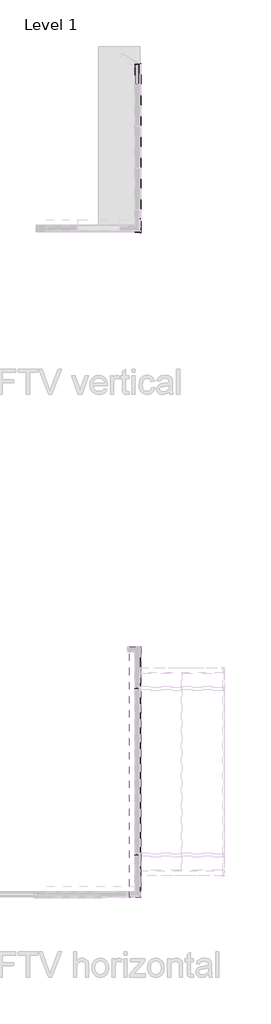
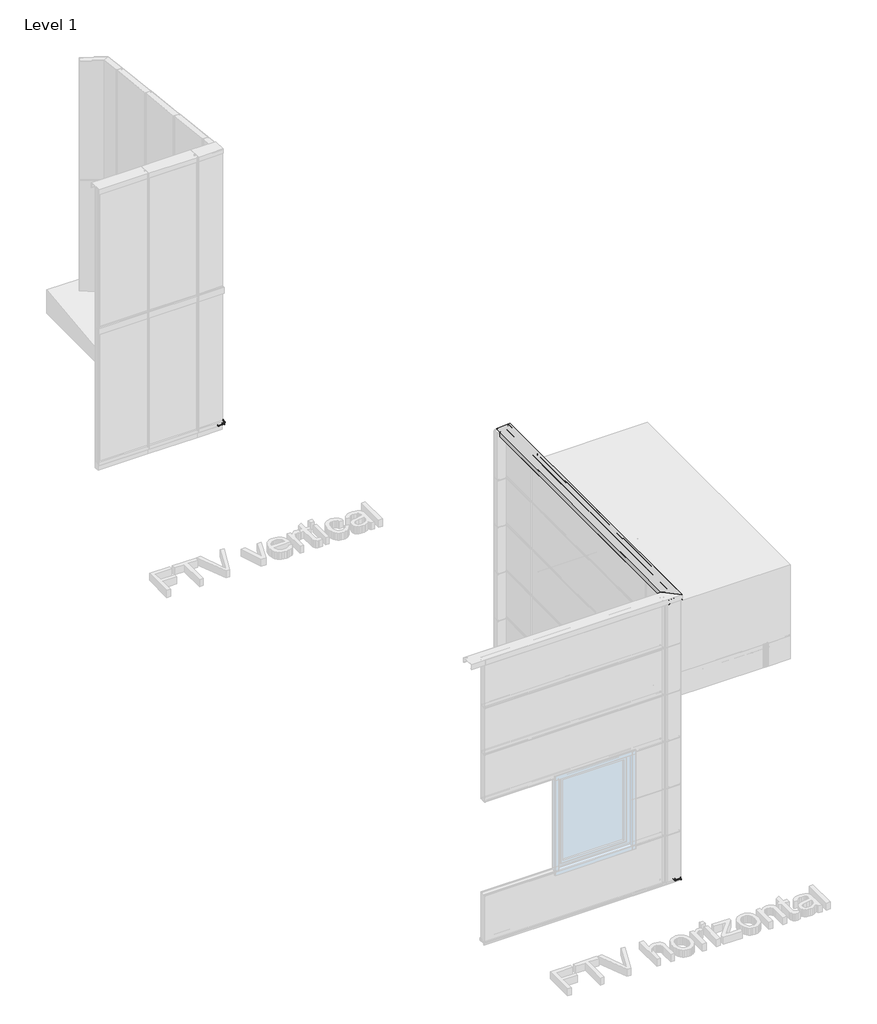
# One storey, part 15 of 16: 3 beams.
"""IFC4 building model written with IfcOpenShell, lengths in millimetres."""

from ifc_helpers import new_model, si_unit, point, frame, frame_2d, origin, place, context, project, spatial, polyline, circle_curve, ellipse_curve, trimmed, segment, composite_curve, outline, extrude, faceted_brep, element, save
from ifc_brep_helpers import plane_surface, cylinder_surface, revolved_surface, advanced_brep

model = new_model("IFC4")

# Units and contexts
model_context = context("Model", 3, world=origin())
ifc_project = project(units=[si_unit("LENGTHUNIT", "METRE", prefix="MILLI")], contexts=[model_context])

# Site, building, storey
site = spatial("IfcSite", under=ifc_project)
building = spatial("IfcBuilding", under=site)
storey = spatial("IfcBuildingStorey", under=building, Name="Level 1", Elevation=0.0)

# Beams
placement = place(None, origin())
element("IfcBeam", 1, ObjectType="TE-V-02_01_Base detail i_BEAM : Base detail", at=placement, inside=storey, context=model_context, shape_type="Brep", body=[
    faceted_brep([(24.5385322, 3923.1778141, 194.9633718), (7.5382377, 3922.6516828, 199.4881007), (7.8488205, 3922.5178045, 200.6394542), (26.4844943, 3923.0945481, 195.6794595), (26.4844943, 3931.6101242, 122.445505), (9.4896675, 3929.6472071, 139.3265919), (8.9239821, 3929.7125442, 138.7646924), (27.2844943, 3931.8331991, 120.5270601), (27.2844943, 3923.0236465, 196.2892127), (7.2831351, 3922.4046372, 201.6126927), (6.5584418, 3922.71702, 198.9262012), (24.331477, 3923.2670663, 194.1958028), (24.5385322, 7963.7195842, 664.7938102), (24.331477, 7963.8088364, 664.0262412), (6.5584418, 7963.2587901, 668.7566396), (7.2831351, 7962.9464074, 671.4431311), (27.2844943, 7963.5654167, 666.1196511), (27.2844943, 7972.3749693, 590.3574985), (8.9239821, 7970.2543144, 608.5951308), (9.4896675, 7970.1889772, 609.1570303), (26.4844943, 7972.1518943, 592.2759434), (26.4844943, 7963.6363182, 665.5098978), (7.8488205, 7963.0595746, 670.4698926), (7.5382377, 7963.1934529, 669.3185391)], [[[0, 1, 2, 3, 4, 5, 6, 7, 8, 9, 10, 11]], [[12, 13, 14, 15, 16, 17, 18, 19, 20, 21, 22, 23]], [[1, 0, 12, 23]], [[2, 1, 23, 22]], [[3, 2, 22, 21]], [[4, 3, 21, 20]], [[5, 4, 20, 19]], [[6, 5, 19, 18]], [[7, 6, 18, 17]], [[8, 7, 17, 16]], [[9, 8, 16, 15]], [[10, 9, 15, 14]], [[11, 10, 14, 13]], [[0, 11, 13, 12]]]),
    faceted_brep([(26.4844943, 3949.0069121, 198.692525), (26.4844943, 7963.6363182, 665.5098978), (26.4844943, 7972.1518943, 592.2759434), (26.4844943, 3949.0069121, 124.4683873), (9.4896675, 7970.1889772, 609.1570303), (9.4896675, 3966.0017389, 143.5538631), (8.9239821, 3966.5674244, 143.0501436), (8.9239821, 7970.2543144, 608.5951308), (27.2844943, 7972.3749693, 590.3574985), (27.2844943, 3948.2069121, 122.4309802), (27.2844943, 7963.5654167, 666.1196511), (27.2844943, 3948.2069121, 199.2174994), (24.5385322, 7963.7195842, 664.7938102), (24.331477, 7963.8088364, 664.0262412), (6.5584418, 7963.2587901, 668.7566396), (7.2831351, 7962.9464074, 671.4431311), (7.8488205, 7963.0595746, 670.4698926), (7.5382377, 7963.1934529, 669.3185391), (24.331477, 3951.1599295, 197.439159), (24.5385322, 3950.9528743, 198.19303), (6.5584418, 3968.9329647, 204.3001482), (7.2831351, 3968.2082714, 206.9386966), (7.8488205, 3967.6425859, 205.8865218), (7.5382377, 3967.9531688, 204.7557153)], [[[0, 1, 2, 3]], [[3, 2, 4, 5]], [[6, 7, 8, 9]], [[9, 8, 10, 11]], [[12, 13, 14, 15, 10, 8, 7, 4, 2, 1, 16, 17]], [[18, 13, 12, 19]], [[20, 14, 13, 18]], [[21, 15, 14, 20]], [[11, 10, 15, 21]], [[5, 4, 7, 6]], [[22, 16, 1, 0]], [[23, 17, 16, 22]], [[19, 12, 17, 23]], [[19, 23, 22, 0, 3, 5, 6, 9, 11, 21, 20, 18]]]),
    faceted_brep([(7.4844943, 7963.3096563, 668.3191906), (23.4428352, 7963.8035408, 664.0717838), (23.23578, 7963.892793, 663.3042148), (8.2844943, 7963.4300752, 667.2835879), (8.2844943, 7969.0987083, 618.5333432), (25.2844943, 7969.0987083, 618.5333432), (25.2844943, 7971.8014284, 595.2899505), (24.4844943, 7971.8014284, 595.2899505), (24.4844943, 7969.191109, 617.7386973), (7.4844943, 7969.191109, 617.7386973), (7.4844943, 3922.7678861, 198.4887522), (7.4844943, 3928.6493388, 147.9082589), (24.4844943, 3928.6493388, 147.9082589), (24.4844943, 3931.2596582, 125.4595121), (25.2844943, 3931.2596582, 125.4595121), (25.2844943, 3928.5569381, 148.7029048), (8.2844943, 3928.5569381, 148.7029048), (8.2844943, 3922.888305, 197.4531495), (23.23578, 3923.3510228, 193.4737765), (23.4428352, 3923.2617706, 194.2413455)], [[[0, 1, 2, 3, 4, 5, 6, 7, 8, 9]], [[10, 11, 12, 13, 14, 15, 16, 17, 18, 19]], [[1, 0, 10, 19]], [[2, 1, 19, 18]], [[3, 2, 18, 17]], [[4, 3, 17, 16]], [[5, 4, 16, 15]], [[6, 5, 15, 14]], [[7, 6, 14, 13]], [[8, 7, 13, 12]], [[9, 8, 12, 11]], [[0, 9, 11, 10]]]),
    faceted_brep([(7.4844943, 7963.3096563, 668.3191906), (23.4428352, 7963.8035408, 664.0717838), (23.23578, 7963.892793, 663.3042148), (8.2844943, 7963.4300752, 667.2835879), (8.2844943, 7969.0987083, 618.5333432), (25.2844943, 7969.0987083, 618.5333432), (25.2844943, 7971.8014284, 595.2899505), (24.4844943, 7971.8014284, 595.2899505), (24.4844943, 7969.191109, 617.7386973), (7.4844943, 7969.191109, 617.7386973), (7.4844943, 3968.0069121, 203.7491041), (23.4428352, 3952.0485713, 197.5886479), (23.23578, 3952.2556265, 196.8347769), (8.2844943, 3967.2069121, 202.6064759), (8.2844943, 3967.2069121, 153.1970878), (25.2844943, 3950.2069121, 151.2203436), (25.2844943, 3950.2069121, 127.6626811), (24.4844943, 3951.0069121, 127.7557044), (24.4844943, 3951.0069121, 150.5079767), (7.4844943, 3968.0069121, 152.4847209)], [[[0, 1, 2, 3, 4, 5, 6, 7, 8, 9]], [[1, 0, 10, 11]], [[2, 1, 11, 12]], [[3, 2, 12, 13]], [[4, 3, 13, 14]], [[5, 4, 14, 15]], [[6, 5, 15, 16]], [[7, 6, 16, 17]], [[8, 7, 17, 18]], [[9, 8, 18, 19]], [[0, 9, 19, 10]], [[11, 10, 19, 18, 17, 16, 15, 14, 13, 12]]]),
    faceted_brep([(7.3725102, 7969.713442, 613.246633), (25.1673371, 7971.7687598, 595.5709002), (24.6016516, 7971.8340969, 595.0090007), (7.0411394, 7969.8058427, 612.4519871), (-23.1931752, 7969.8058427, 612.4519871), (-23.1931752, 7966.340817, 642.2512085), (-24.3931752, 7966.340817, 642.2512085), (-24.3931752, 7969.8058427, 612.4519871), (-113.1470653, 7969.8058427, 612.4519871), (-115.6275805, 7967.4724741, 632.5189569), (-114.8335436, 7967.4612133, 632.6157999), (-112.4392851, 7969.713442, 613.246633), (-25.1931752, 7969.713442, 613.246633), (-25.1931752, 7966.2484163, 643.0458544), (-22.3931752, 7966.2484163, 643.0458544), (-22.3931752, 7969.713442, 613.246633), (7.3725102, 3929.1716719, 143.4161946), (-22.3931752, 3929.1716719, 143.4161946), (-22.3931752, 3925.7066461, 173.215416), (-25.1931752, 3925.7066461, 173.215416), (-25.1931752, 3929.1716719, 143.4161946), (-112.4392851, 3929.1716719, 143.4161946), (-114.8335436, 3926.9194432, 162.7853615), (-115.6275805, 3926.930704, 162.6885186), (-113.1470653, 3929.2640726, 142.6215487), (-24.3931752, 3929.2640726, 142.6215487), (-24.3931752, 3925.7990468, 172.4207701), (-23.1931752, 3925.7990468, 172.4207701), (-23.1931752, 3929.2640726, 142.6215487), (7.0411394, 3929.2640726, 142.6215487), (24.6016516, 3931.2923268, 125.1785623), (25.1673371, 3931.2269896, 125.7404618)], [[[0, 1, 2, 3, 4, 5, 6, 7, 8, 9, 10, 11, 12, 13, 14, 15]], [[16, 17, 18, 19, 20, 21, 22, 23, 24, 25, 26, 27, 28, 29, 30, 31]], [[1, 0, 16, 31]], [[2, 1, 31, 30]], [[3, 2, 30, 29]], [[4, 3, 29, 28]], [[5, 4, 28, 27]], [[6, 5, 27, 26]], [[7, 6, 26, 25]], [[8, 7, 25, 24]], [[9, 8, 24, 23]], [[10, 9, 23, 22]], [[11, 10, 22, 21]], [[12, 11, 21, 20]], [[13, 12, 20, 19]], [[14, 13, 19, 18]], [[15, 14, 18, 17]], [[0, 15, 17, 16]]]),
    faceted_brep([(7.3725102, 7969.713442, 613.246633), (25.1673371, 7971.7687598, 595.5709002), (24.6016516, 7971.8340969, 595.0090007), (7.0411394, 7969.8058427, 612.4519871), (-23.1931752, 7969.8058427, 612.4519871), (-23.1931752, 7966.340817, 642.2512085), (-24.3931752, 7966.340817, 642.2512085), (-24.3931752, 7969.8058427, 612.4519871), (-113.1470653, 7969.8058427, 612.4519871), (-115.6275805, 7967.4724741, 632.5189569), (-114.8335436, 7967.4612133, 632.6157999), (-112.4392851, 7969.713442, 613.246633), (-25.1931752, 7969.713442, 613.246633), (-25.1931752, 7966.2484163, 643.0458544), (-22.3931752, 7966.2484163, 643.0458544), (-22.3931752, 7969.713442, 613.246633), (7.3725102, 3968.1188962, 147.9449417), (25.1673371, 3950.3240694, 127.9610525), (24.6016516, 3950.8897548, 127.457333), (7.0411394, 3968.4502671, 147.178083), (-23.1931752, 3998.6845817, 150.693701), (-23.1931752, 3998.6845817, 180.8958323), (-24.3931752, 3999.8845817, 181.0353672), (-24.3931752, 3999.8845817, 150.8332358), (-113.1470653, 4088.6384718, 161.1534556), (-115.6275805, 4091.118987, 181.7801794), (-114.8335436, 4090.3249501, 181.7860019), (-112.4392851, 4087.9306916, 161.8765458), (-25.1931752, 4000.6845817, 151.7316493), (-25.1931752, 4000.6845817, 181.9337806), (-22.3931752, 3997.8845817, 181.6081992), (-22.3931752, 3997.8845817, 151.4060679)], [[[0, 1, 2, 3, 4, 5, 6, 7, 8, 9, 10, 11, 12, 13, 14, 15]], [[1, 0, 16, 17]], [[2, 1, 17, 18]], [[3, 2, 18, 19]], [[4, 3, 19, 20]], [[5, 4, 20, 21]], [[6, 5, 21, 22]], [[7, 6, 22, 23]], [[8, 7, 23, 24]], [[9, 8, 24, 25]], [[10, 9, 25, 26]], [[11, 10, 26, 27]], [[12, 11, 27, 28]], [[13, 12, 28, 29]], [[14, 13, 29, 30]], [[15, 14, 30, 31]], [[0, 15, 31, 16]], [[17, 16, 31, 30, 29, 28, 27, 26, 25, 24, 23, 22, 21, 20, 19, 18]]]),
])
element("IfcBeam", 2, ObjectType="TE-H-02_01_Base detail i_BEAM : Base detail", at=placement, inside=storey, context=model_context, shape_type="SolidModel", body=[
    faceted_brep([(-6.3155057, -12043.2124765, 176.1857205), (-6.3155057, -12043.2124765, 161.1857205), (-5.5155057, -12043.2124765, 161.1857205), (-5.5155057, -12043.2124765, 175.3857205), (-2.1155057, -12043.2124765, 175.3857205), (-2.1155057, -12043.2124765, 150.7238403), (10.8748754, -12043.2124765, 143.2238403), (10.8748754, -12043.2124765, 120.6170914), (1.6339591, -12043.2124765, 129.8580077), (1.0682737, -12043.2124765, 129.2923222), (11.6748754, -12043.2124765, 118.6857205), (11.6748754, -12043.2124765, 143.6857205), (-1.3155057, -12043.2124765, 151.1857205), (-1.3155057, -12043.2124765, 176.1857205), (-6.3155057, -6030.3930879, 176.1857205), (-1.3155057, -6030.3930879, 176.1857205), (-1.3155057, -6030.3930879, 151.1857205), (11.6748754, -6030.3930879, 143.6857205), (11.6748754, -6030.3930879, 118.6857205), (1.0682737, -6030.3930879, 129.2923222), (1.6339591, -6030.3930879, 129.8580077), (10.8748754, -6030.3930879, 120.6170914), (10.8748754, -6030.3930879, 143.2238403), (-2.1155057, -6030.3930879, 150.7238403), (-2.1155057, -6030.3930879, 175.3857205), (-5.5155057, -6030.3930879, 175.3857205), (-5.5155057, -6030.3930879, 161.1857205), (-6.3155057, -6030.3930879, 161.1857205)], [[[0, 1, 2, 3, 4, 5, 6, 7, 8, 9, 10, 11, 12, 13]], [[14, 15, 16, 17, 18, 19, 20, 21, 22, 23, 24, 25, 26, 27]], [[1, 0, 14, 27]], [[2, 1, 27, 26]], [[3, 2, 26, 25]], [[4, 3, 25, 24]], [[5, 4, 24, 23]], [[6, 5, 23, 22]], [[7, 6, 22, 21]], [[8, 7, 21, 20]], [[9, 8, 20, 19]], [[10, 9, 19, 18]], [[11, 10, 18, 17]], [[12, 11, 17, 16]], [[13, 12, 16, 15]], [[0, 13, 15, 14]]]),
    faceted_brep([(-6.3155057, -6030.3930879, 176.1857205), (-1.3155057, -6030.3930879, 176.1857205), (-1.3155057, -6030.3930879, 151.1857205), (11.6748754, -6030.3930879, 143.6857205), (11.6748754, -6030.3930879, 118.6857205), (1.0682737, -6030.3930879, 129.2923222), (1.6339591, -6030.3930879, 129.8580077), (10.8748754, -6030.3930879, 120.6170914), (10.8748754, -6030.3930879, 143.2238403), (-2.1155057, -6030.3930879, 150.7238403), (-2.1155057, -6030.3930879, 175.3857205), (-5.5155057, -6030.3930879, 175.3857205), (-5.5155057, -6030.3930879, 161.1857205), (-6.3155057, -6030.3930879, 161.1857205), (-1.3155057, -12023.1930879, 176.1857205), (-6.3155057, -12018.1930879, 176.1857205), (-1.3155057, -12023.1930879, 151.1857205), (11.6748754, -12036.1834689, 143.6857205), (11.6748754, -12036.1834689, 118.6857205), (1.0682737, -12025.5768672, 129.2923222), (1.6339591, -12026.1425526, 129.8580077), (10.8748754, -12035.3834689, 120.6170914), (10.8748754, -12035.3834689, 143.2238403), (-2.1155057, -12022.3930879, 150.7238403), (-2.1155057, -12022.3930879, 175.3857205), (-5.5155057, -12018.9930879, 175.3857205), (-5.5155057, -12018.9930879, 161.1857205), (-6.3155057, -12018.1930879, 161.1857205)], [[[0, 1, 2, 3, 4, 5, 6, 7, 8, 9, 10, 11, 12, 13]], [[14, 1, 0, 15]], [[16, 2, 1, 14]], [[17, 3, 2, 16]], [[18, 4, 3, 17]], [[19, 5, 4, 18]], [[20, 6, 5, 19]], [[21, 7, 6, 20]], [[22, 8, 7, 21]], [[23, 9, 8, 22]], [[24, 10, 9, 23]], [[25, 11, 10, 24]], [[26, 12, 11, 25]], [[27, 13, 12, 26]], [[15, 0, 13, 27]], [[15, 27, 26, 25, 24, 23, 22, 21, 20, 19, 18, 17, 16, 14]]]),
    advanced_brep(
    [(-115.6155057, -6030.3930879, 148.5), (-118.6155057, -6030.3930879, 151.5), (-118.6155057, -6030.3930879, 198.5), (-117.1155057, -6030.3930879, 198.5), (-117.1155057, -6030.3930879, 151.5), (-115.6155057, -6030.3930879, 150.0), (-18.6155057, -6030.3930879, 150.0), (-18.6155057, -6030.3930879, 148.5), (-115.6155057, -12043.2124765, 148.5), (-18.6155057, -12043.2124765, 148.5), (-18.6155057, -12043.2124765, 150.0), (-115.6155057, -12043.2124765, 150.0), (-117.1155057, -12043.2124765, 151.5), (-117.1155057, -12043.2124765, 198.5), (-118.6155057, -12043.2124765, 198.5), (-118.6155057, -12043.2124765, 151.5)],
    [
        (0, 1, circle_curve(frame((-115.6155057, -6030.3930879, 151.5), z_axis=(0.0, 1.0, 0.0), x_axis=(-1.0, 0.0, 0.0)), 3.0)),
        (1, 2),
        (2, 3),
        (3, 4),
        (4, 5, circle_curve(frame((-115.6155057, -6030.3930879, 151.5), z_axis=(0.0, -1.0, 0.0), x_axis=(-1.0, 0.0, 0.0)), 1.5)),
        (5, 6),
        (6, 7),
        (7, 0),
        (8, 9),
        (9, 10),
        (10, 11),
        (11, 12, circle_curve(frame((-115.6155057, -12043.2124765, 151.5), z_axis=(0.0, 1.0, 0.0), x_axis=(-1.0, 0.0, 0.0)), 1.5)),
        (12, 13),
        (13, 14),
        (14, 15),
        (15, 8, circle_curve(frame((-115.6155057, -12043.2124765, 151.5), z_axis=(0.0, -1.0, 0.0), x_axis=(-1.0, 0.0, 0.0)), 3.0)),
        (0, 8),
        (15, 1),
        (14, 2),
        (13, 3),
        (12, 4),
        (11, 5),
        (10, 6),
        (9, 7),
    ],
    [
        plane_surface(frame((-118.6155057, -6030.3930879, 151.5), z_axis=(0.0, 1.0, 0.0), x_axis=(0.0, 0.0, 1.0))),
        plane_surface(frame((-118.6155057, -12043.2124765, 151.5), z_axis=(0.0, -1.0, 0.0), x_axis=(0.0, 0.0, -1.0))),
        cylinder_surface(frame((-115.6155057, -12043.2124765, 151.5), z_axis=(0.0, 1.0, 0.0), x_axis=(-1.0, 0.0, 0.0)), 3.0),
        plane_surface(frame((-118.6155057, -6030.3930879, 151.5), z_axis=(-1.0, 0.0, 0.0), x_axis=(0.0, -1.0, 0.0))),
        plane_surface(frame((-118.6155057, -6030.3930879, 198.5), z_axis=(0.0, 0.0, 1.0), x_axis=(0.0, -1.0, 0.0))),
        plane_surface(frame((-117.1155057, -6030.3930879, 198.5), z_axis=(1.0, 0.0, 0.0), x_axis=(0.0, -1.0, 0.0))),
        revolved_surface(polyline([(-117.1155057, -12043.2124765, 151.5), (-117.1155057, -6030.3930879, 151.5)]), (-115.6155057, -12043.2124765, 151.5), (0.0, -1.0, 0.0)),
        plane_surface(frame((-115.6155057, -6030.3930879, 150.0), z_axis=(0.0, 0.0, 1.0), x_axis=(0.0, -1.0, 0.0))),
        plane_surface(frame((-18.6155057, -6030.3930879, 150.0), z_axis=(1.0, 0.0, 0.0), x_axis=(0.0, -1.0, 0.0))),
        plane_surface(frame((-18.6155057, -6030.3930879, 148.5), z_axis=(0.0, 0.0, -1.0), x_axis=(0.0, -1.0, 0.0))),
    ],
    [
        (0, [[1, 2, 3, 4, 5, 6, 7, 8]]),
        (1, [[9, 10, 11, 12, 13, 14, 15, 16]]),
        (2, [[-1, 17, -16, 18]]),
        (3, [[-2, -18, -15, 19]]),
        (4, [[-3, -19, -14, 20]]),
        (5, [[-4, -20, -13, 21]]),
        (6, [[-5, -21, -12, 22]]),
        (7, [[-6, -22, -11, 23]]),
        (8, [[-7, -23, -10, 24]]),
        (9, [[-8, -24, -9, -17]]),
    ],
),
    advanced_brep(
    [(-115.6155057, -6030.3930879, 148.5), (-118.6155057, -6030.3930879, 151.5), (-118.6155057, -6030.3930879, 198.5), (-117.1155057, -6030.3930879, 198.5), (-117.1155057, -6030.3930879, 151.5), (-115.6155057, -6030.3930879, 150.0), (-18.6155057, -6030.3930879, 150.0), (-18.6155057, -6030.3930879, 148.5), (-115.6155057, -11908.8930879, 148.5), (-118.6155057, -11905.8930879, 151.5), (-118.6155057, -11905.8930879, 198.5), (-117.1155057, -11907.3930879, 198.5), (-117.1155057, -11907.3930879, 151.5), (-115.6155057, -11908.8930879, 150.0), (-18.6155057, -12005.8930879, 150.0), (-18.6155057, -12005.8930879, 148.5)],
    [
        (0, 1, circle_curve(frame((-115.6155057, -6030.3930879, 151.5), z_axis=(0.0, 1.0, 0.0), x_axis=(-1.0, 0.0, 0.0)), 3.0)),
        (1, 2),
        (2, 3),
        (3, 4),
        (4, 5, circle_curve(frame((-115.6155057, -6030.3930879, 151.5), z_axis=(0.0, -1.0, 0.0), x_axis=(-1.0, 0.0, 0.0)), 1.5)),
        (5, 6),
        (6, 7),
        (7, 0),
        (0, 8),
        (8, 9, ellipse_curve(frame((-115.6155057, -11908.8930879, 151.5), z_axis=(0.7071067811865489, 0.7071067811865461, 0.0), x_axis=(-0.7071067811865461, 0.7071067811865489, 0.0)), 4.2426407, 3.0)),
        (9, 1),
        (9, 10),
        (10, 2),
        (10, 11),
        (11, 3),
        (11, 12),
        (12, 4),
        (12, 13, ellipse_curve(frame((-115.6155057, -11908.8930879, 151.5), z_axis=(-0.7071067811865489, -0.7071067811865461, 0.0), x_axis=(0.7071067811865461, -0.7071067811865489, 0.0)), 2.1213203, 1.5)),
        (13, 5),
        (13, 14),
        (14, 6),
        (14, 15),
        (15, 7),
        (15, 8),
    ],
    [
        plane_surface(frame((-118.6155057, -6030.3930879, 151.5), z_axis=(0.0, 1.0, 0.0), x_axis=(0.0, 0.0, 1.0))),
        cylinder_surface(frame((-115.6155057, -12043.2124765, 151.5), z_axis=(0.0, 1.0, 0.0), x_axis=(-1.0, 0.0, 0.0)), 3.0),
        plane_surface(frame((-118.6155057, -6030.3930879, 151.5), z_axis=(-1.0, 0.0, 0.0), x_axis=(0.0, -1.0, 0.0))),
        plane_surface(frame((-118.6155057, -6030.3930879, 198.5), z_axis=(0.0, 0.0, 1.0), x_axis=(0.0, -1.0, 0.0))),
        plane_surface(frame((-117.1155057, -6030.3930879, 198.5), z_axis=(1.0, 0.0, 0.0), x_axis=(0.0, -1.0, 0.0))),
        revolved_surface(polyline([(-117.1155057, -11910.393087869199, 151.5), (-117.1155057, -6030.3930879, 151.5)]), (-115.6155057, -12043.2124765, 151.5), (0.0, -1.0, 0.0)),
        plane_surface(frame((-115.6155057, -6030.3930879, 150.0), z_axis=(0.0, 0.0, 1.0), x_axis=(0.0, -1.0, 0.0))),
        plane_surface(frame((-18.6155057, -6030.3930879, 150.0), z_axis=(1.0, 0.0, 0.0), x_axis=(0.0, -1.0, 0.0))),
        plane_surface(frame((-18.6155057, -6030.3930879, 148.5), z_axis=(0.0, 0.0, -1.0), x_axis=(0.0, -1.0, 0.0))),
        plane_surface(frame((-247.5155057, -11776.9930879, 100000.0), z_axis=(-0.7071067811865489, -0.7071067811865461, 0.0), x_axis=(-0.7071067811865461, 0.7071067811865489, 0.0))),
    ],
    [
        (0, [[1, 2, 3, 4, 5, 6, 7, 8]]),
        (1, [[-1, 9, 10, 11]]),
        (2, [[-2, -11, 12, 13]]),
        (3, [[-3, -13, 14, 15]]),
        (4, [[-4, -15, 16, 17]]),
        (5, [[-5, -17, 18, 19]]),
        (6, [[-6, -19, 20, 21]]),
        (7, [[-7, -21, 22, 23]]),
        (8, [[-8, -23, 24, -9]]),
        (9, [[-10, -24, -22, -20, -18, -16, -14, -12]]),
    ],
),
    extrude(outline(composite_curve([segment(polyline([(175.0, -2.1155057), (175.0, -4.1155057), (154.0, -4.1155057)]), True, "CONTINUOUS"), segment(trimmed(circle_curve(frame_2d((154.0, -6.1155057)), 2.0), [point((154.0, -4.1155057))], [point((152.0, -6.1155057))], True, "CARTESIAN"), True, "CONTINUOUS"), segment(polyline([(152.0, -6.1155057), (152.0, -102.1155057)]), True, "CONTINUOUS"), segment(trimmed(circle_curve(frame_2d((154.0, -102.1155057)), 2.0), [point((152.0, -102.1155057))], [point((154.0, -104.1155057))], True, "CARTESIAN"), True, "CONTINUOUS"), segment(polyline([(154.0, -104.1155057), (175.0, -104.1155057), (175.0, -106.1155057), (154.0, -106.1155057)]), True, "CONTINUOUS"), segment(trimmed(circle_curve(frame_2d((154.0, -102.1155057)), 4.0), [point((154.0, -106.1155057))], [point((150.0, -102.1155057))], False, "CARTESIAN"), True, "CONTINUOUS"), segment(polyline([(150.0, -102.1155057), (150.0, -6.1155057)]), True, "CONTINUOUS"), segment(trimmed(circle_curve(frame_2d((154.0, -6.1155057)), 4.0), [point((150.0, -6.1155057))], [point((154.0, -2.1155057))], False, "CARTESIAN"), True, "CONTINUOUS"), segment(polyline([(154.0, -2.1155057), (175.0, -2.1155057)]), True, "CONTINUOUS")], self_intersect=False)), frame((0.0, -6180.3930879, 0.0), z_axis=(0.0, 1.0, 0.0), x_axis=(0.0, 0.0, 1.0)), (0.0, 0.0, 1.0), 150.0),
    extrude(outline(composite_curve([segment(polyline([(175.0, -2.1155057), (175.0, -4.1155057), (154.0, -4.1155057)]), True, "CONTINUOUS"), segment(trimmed(circle_curve(frame_2d((154.0, -6.1155057)), 2.0), [point((154.0, -4.1155057))], [point((152.0, -6.1155057))], True, "CARTESIAN"), True, "CONTINUOUS"), segment(polyline([(152.0, -6.1155057), (152.0, -102.1155057)]), True, "CONTINUOUS"), segment(trimmed(circle_curve(frame_2d((154.0, -102.1155057)), 2.0), [point((152.0, -102.1155057))], [point((154.0, -104.1155057))], True, "CARTESIAN"), True, "CONTINUOUS"), segment(polyline([(154.0, -104.1155057), (175.0, -104.1155057), (175.0, -106.1155057), (154.0, -106.1155057)]), True, "CONTINUOUS"), segment(trimmed(circle_curve(frame_2d((154.0, -102.1155057)), 4.0), [point((154.0, -106.1155057))], [point((150.0, -102.1155057))], False, "CARTESIAN"), True, "CONTINUOUS"), segment(polyline([(150.0, -102.1155057), (150.0, -6.1155057)]), True, "CONTINUOUS"), segment(trimmed(circle_curve(frame_2d((154.0, -6.1155057)), 4.0), [point((150.0, -6.1155057))], [point((154.0, -2.1155057))], False, "CARTESIAN"), True, "CONTINUOUS"), segment(polyline([(154.0, -2.1155057), (175.0, -2.1155057)]), True, "CONTINUOUS")], self_intersect=False)), frame((0.0, -7180.3930879, 0.0), z_axis=(0.0, 1.0, 0.0), x_axis=(0.0, 0.0, 1.0)), (0.0, 0.0, 1.0), 150.0),
    advanced_brep(
    [(-2.1155057, -12043.2124765, 175.0), (-4.1155057, -12043.2124765, 175.0), (-4.1155057, -12043.2124765, 154.0), (-6.1155057, -12043.2124765, 152.0), (-102.1155057, -12043.2124765, 152.0), (-104.1155057, -12043.2124765, 154.0), (-104.1155057, -12043.2124765, 175.0), (-106.1155057, -12043.2124765, 175.0), (-106.1155057, -12043.2124765, 154.0), (-102.1155057, -12043.2124765, 150.0), (-6.1155057, -12043.2124765, 150.0), (-2.1155057, -12043.2124765, 154.0), (-2.1155057, -11893.2124765, 175.0), (-2.1155057, -11893.2124765, 154.0), (-6.1155057, -11893.2124765, 150.0), (-102.1155057, -11893.2124765, 150.0), (-106.1155057, -11893.2124765, 154.0), (-106.1155057, -11893.2124765, 175.0), (-104.1155057, -11893.2124765, 175.0), (-104.1155057, -11893.2124765, 154.0), (-102.1155057, -11893.2124765, 152.0), (-6.1155057, -11893.2124765, 152.0), (-4.1155057, -11893.2124765, 154.0), (-4.1155057, -11893.2124765, 175.0)],
    [
        (0, 1),
        (1, 2),
        (2, 3, circle_curve(frame((-6.1155057, -12043.2124765, 154.0), z_axis=(0.0, 1.0, 0.0), x_axis=(1.0, 0.0, 0.0)), 2.0)),
        (3, 4),
        (4, 5, circle_curve(frame((-102.1155057, -12043.2124765, 154.0), z_axis=(0.0, 1.0, 0.0), x_axis=(1.0, 0.0, 0.0)), 2.0)),
        (5, 6),
        (6, 7),
        (7, 8),
        (8, 9, circle_curve(frame((-102.1155057, -12043.2124765, 154.0), z_axis=(0.0, -1.0, 0.0), x_axis=(1.0, 0.0, 0.0)), 4.0)),
        (9, 10),
        (10, 11, circle_curve(frame((-6.1155057, -12043.2124765, 154.0), z_axis=(0.0, -1.0, 0.0), x_axis=(1.0, 0.0, 0.0)), 4.0)),
        (11, 0),
        (12, 13),
        (13, 14, circle_curve(frame((-6.1155057, -11893.2124765, 154.0), z_axis=(0.0, 1.0, 0.0), x_axis=(1.0, 0.0, 0.0)), 4.0)),
        (14, 15),
        (15, 16, circle_curve(frame((-102.1155057, -11893.2124765, 154.0), z_axis=(0.0, 1.0, 0.0), x_axis=(1.0, 0.0, 0.0)), 4.0)),
        (16, 17),
        (17, 18),
        (18, 19),
        (19, 20, circle_curve(frame((-102.1155057, -11893.2124765, 154.0), z_axis=(0.0, -1.0, 0.0), x_axis=(1.0, 0.0, 0.0)), 2.0)),
        (20, 21),
        (21, 22, circle_curve(frame((-6.1155057, -11893.2124765, 154.0), z_axis=(0.0, -1.0, 0.0), x_axis=(1.0, 0.0, 0.0)), 2.0)),
        (22, 23),
        (23, 12),
        (0, 12),
        (23, 1),
        (22, 2),
        (21, 3),
        (20, 4),
        (19, 5),
        (18, 6),
        (17, 7),
        (16, 8),
        (15, 9),
        (14, 10),
        (13, 11),
    ],
    [
        plane_surface(frame((-2.1155057, -12043.2124765, 175.0), z_axis=(0.0, -1.0, 0.0), x_axis=(-1.0, 0.0, 0.0))),
        plane_surface(frame((-2.1155057, -11893.2124765, 175.0), z_axis=(0.0, 1.0, 0.0), x_axis=(1.0, 0.0, 0.0))),
        plane_surface(frame((-2.1155057, -12043.2124765, 175.0), z_axis=(0.0, 0.0, 1.0), x_axis=(0.0, 1.0, 0.0))),
        plane_surface(frame((-4.1155057, -12043.2124765, 175.0), z_axis=(-1.0, 0.0, 0.0), x_axis=(0.0, 1.0, 0.0))),
        revolved_surface(polyline([(-4.1155057, -11893.2124765, 154.0), (-4.1155057, -12043.2124765, 154.0)]), (-6.1155057, -11893.2124765, 154.0), (0.0, 1.0, 0.0)),
        plane_surface(frame((-6.1155057, -12043.2124765, 152.0), z_axis=(0.0, 0.0, 1.0), x_axis=(0.0, 1.0, 0.0))),
        revolved_surface(polyline([(-100.1155057, -11893.2124765, 154.0), (-100.1155057, -12043.2124765, 154.0)]), (-102.1155057, -11893.2124765, 154.0), (0.0, 1.0, 0.0)),
        plane_surface(frame((-104.1155057, -12043.2124765, 154.0), z_axis=(1.0, 0.0, 0.0), x_axis=(0.0, 1.0, 0.0))),
        plane_surface(frame((-104.1155057, -12043.2124765, 175.0), z_axis=(0.0, 0.0, 1.0), x_axis=(0.0, 1.0, 0.0))),
        plane_surface(frame((-106.1155057, -12043.2124765, 175.0), z_axis=(-1.0, 0.0, 0.0), x_axis=(0.0, 1.0, 0.0))),
        cylinder_surface(frame((-102.1155057, -11893.2124765, 154.0), z_axis=(0.0, -1.0, 0.0), x_axis=(1.0, 0.0, 0.0)), 4.0),
        plane_surface(frame((-102.1155057, -12043.2124765, 150.0), z_axis=(0.0, 0.0, -1.0), x_axis=(0.0, 1.0, 0.0))),
        cylinder_surface(frame((-6.1155057, -11893.2124765, 154.0), z_axis=(0.0, -1.0, 0.0), x_axis=(1.0, 0.0, 0.0)), 4.0),
        plane_surface(frame((-2.1155057, -12043.2124765, 154.0), z_axis=(1.0, 0.0, 0.0), x_axis=(0.0, 1.0, 0.0))),
    ],
    [
        (0, [[1, 2, 3, 4, 5, 6, 7, 8, 9, 10, 11, 12]]),
        (1, [[13, 14, 15, 16, 17, 18, 19, 20, 21, 22, 23, 24]]),
        (2, [[-1, 25, -24, 26]]),
        (3, [[-2, -26, -23, 27]]),
        (4, [[-3, -27, -22, 28]]),
        (5, [[-4, -28, -21, 29]]),
        (6, [[-5, -29, -20, 30]]),
        (7, [[-6, -30, -19, 31]]),
        (8, [[-7, -31, -18, 32]]),
        (9, [[-8, -32, -17, 33]]),
        (10, [[-9, -33, -16, 34]]),
        (11, [[-10, -34, -15, 35]]),
        (12, [[-11, -35, -14, 36]]),
        (13, [[-12, -36, -13, -25]]),
    ],
),
    advanced_brep(
    [(-2.1155057, -12022.3930879, 175.0), (-2.1155057, -11893.2124765, 175.0), (-4.1155057, -11893.2124765, 175.0), (-4.1155057, -12020.3930879, 175.0), (-4.1155057, -11893.2124765, 154.0), (-4.1155057, -12020.3930879, 154.0), (-6.1155057, -11893.2124765, 152.0), (-6.1155057, -12018.3930879, 152.0), (-102.1155057, -11893.2124765, 152.0), (-102.1155057, -11922.3930879, 152.0), (-104.1155057, -11893.2124765, 154.0), (-104.1155057, -11920.3930879, 154.0), (-104.1155057, -11893.2124765, 175.0), (-104.1155057, -11920.3930879, 175.0), (-106.1155057, -11893.2124765, 175.0), (-106.1155057, -11918.3930879, 175.0), (-106.1155057, -11893.2124765, 154.0), (-106.1155057, -11918.3930879, 154.0), (-102.1155057, -11893.2124765, 150.0), (-102.1155057, -11922.3930879, 150.0), (-6.1155057, -11893.2124765, 150.0), (-6.1155057, -12018.3930879, 150.0), (-2.1155057, -11893.2124765, 154.0), (-2.1155057, -12022.3930879, 154.0)],
    [
        (0, 1),
        (1, 2),
        (2, 3),
        (3, 0),
        (2, 4),
        (4, 5),
        (5, 3),
        (4, 6, circle_curve(frame((-6.1155057, -11893.2124765, 154.0), z_axis=(0.0, 1.0, 0.0), x_axis=(1.0, 0.0, 0.0)), 2.0)),
        (6, 7),
        (7, 5, ellipse_curve(frame((-6.1155057, -12018.3930879, 154.0), z_axis=(-0.7071067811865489, -0.7071067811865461, 0.0), x_axis=(-0.7071067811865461, 0.7071067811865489, 0.0)), 2.8284271, 2.0)),
        (6, 8),
        (8, 9),
        (9, 7),
        (8, 10, circle_curve(frame((-102.1155057, -11893.2124765, 154.0), z_axis=(0.0, 1.0, 0.0), x_axis=(1.0, 0.0, 0.0)), 2.0)),
        (10, 11),
        (11, 9, ellipse_curve(frame((-102.1155057, -11922.3930879, 154.0), z_axis=(-0.7071067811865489, -0.7071067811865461, 0.0), x_axis=(-0.7071067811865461, 0.7071067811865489, 0.0)), 2.8284271, 2.0)),
        (10, 12),
        (12, 13),
        (13, 11),
        (12, 14),
        (14, 15),
        (15, 13),
        (14, 16),
        (16, 17),
        (17, 15),
        (16, 18, circle_curve(frame((-102.1155057, -11893.2124765, 154.0), z_axis=(0.0, -1.0, 0.0), x_axis=(1.0, 0.0, 0.0)), 4.0)),
        (18, 19),
        (19, 17, ellipse_curve(frame((-102.1155057, -11922.3930879, 154.0), z_axis=(0.7071067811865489, 0.7071067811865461, 0.0), x_axis=(0.7071067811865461, -0.7071067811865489, 0.0)), 5.6568542, 4.0)),
        (18, 20),
        (20, 21),
        (21, 19),
        (20, 22, circle_curve(frame((-6.1155057, -11893.2124765, 154.0), z_axis=(0.0, -1.0, 0.0), x_axis=(1.0, 0.0, 0.0)), 4.0)),
        (22, 23),
        (23, 21, ellipse_curve(frame((-6.1155057, -12018.3930879, 154.0), z_axis=(0.7071067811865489, 0.7071067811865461, 0.0), x_axis=(0.7071067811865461, -0.7071067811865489, 0.0)), 5.6568542, 4.0)),
        (22, 1),
        (0, 23),
    ],
    [
        plane_surface(frame((-2.1155057, -12043.2124765, 175.0), z_axis=(0.0, 0.0, 1.0), x_axis=(0.0, 1.0, 0.0))),
        plane_surface(frame((-4.1155057, -12043.2124765, 175.0), z_axis=(-1.0, 0.0, 0.0), x_axis=(0.0, 1.0, 0.0))),
        revolved_surface(polyline([(-4.1155057, -11893.2124765, 154.0), (-4.1155057, -12020.3930879, 154.0)]), (-6.1155057, -11893.2124765, 154.0), (0.0, 1.0, 0.0)),
        plane_surface(frame((-6.1155057, -12043.2124765, 152.0), z_axis=(0.0, 0.0, 1.0), x_axis=(0.0, 1.0, 0.0))),
        revolved_surface(polyline([(-100.1155057, -11893.2124765, 154.0), (-100.1155057, -11924.393087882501, 154.0)]), (-102.1155057, -11893.2124765, 154.0), (0.0, 1.0, 0.0)),
        plane_surface(frame((-104.1155057, -12043.2124765, 154.0), z_axis=(1.0, 0.0, 0.0), x_axis=(0.0, 1.0, 0.0))),
        plane_surface(frame((-104.1155057, -12043.2124765, 175.0), z_axis=(0.0, 0.0, 1.0), x_axis=(0.0, 1.0, 0.0))),
        plane_surface(frame((-106.1155057, -12043.2124765, 175.0), z_axis=(-1.0, 0.0, 0.0), x_axis=(0.0, 1.0, 0.0))),
        cylinder_surface(frame((-102.1155057, -11893.2124765, 154.0), z_axis=(0.0, -1.0, 0.0), x_axis=(1.0, 0.0, 0.0)), 4.0),
        plane_surface(frame((-102.1155057, -12043.2124765, 150.0), z_axis=(0.0, 0.0, -1.0), x_axis=(0.0, 1.0, 0.0))),
        cylinder_surface(frame((-6.1155057, -11893.2124765, 154.0), z_axis=(0.0, -1.0, 0.0), x_axis=(1.0, 0.0, 0.0)), 4.0),
        plane_surface(frame((-2.1155057, -12043.2124765, 154.0), z_axis=(1.0, 0.0, 0.0), x_axis=(0.0, 1.0, 0.0))),
        plane_surface(frame((-2.1155057, -11893.2124765, 175.0), z_axis=(0.0, 1.0, 0.0), x_axis=(1.0, 0.0, 0.0))),
        plane_surface(frame((-247.5155057, -11776.9930879, 100000.0), z_axis=(-0.7071067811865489, -0.7071067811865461, 0.0), x_axis=(-0.7071067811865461, 0.7071067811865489, 0.0))),
    ],
    [
        (0, [[1, 2, 3, 4]]),
        (1, [[-3, 5, 6, 7]]),
        (2, [[-6, 8, 9, 10]]),
        (3, [[-9, 11, 12, 13]]),
        (4, [[-12, 14, 15, 16]]),
        (5, [[-15, 17, 18, 19]]),
        (6, [[-18, 20, 21, 22]]),
        (7, [[-21, 23, 24, 25]]),
        (8, [[-24, 26, 27, 28]]),
        (9, [[-27, 29, 30, 31]]),
        (10, [[-30, 32, 33, 34]]),
        (11, [[-33, 35, -1, 36]]),
        (12, [[-35, -32, -29, -26, -23, -20, -17, -14, -11, -8, -5, -2]]),
        (13, [[-4, -7, -10, -13, -16, -19, -22, -25, -28, -31, -34, -36]]),
    ],
),
    extrude(outline(composite_curve([segment(polyline([(175.0, -2.1155057), (175.0, -4.1155057), (154.0, -4.1155057)]), True, "CONTINUOUS"), segment(trimmed(circle_curve(frame_2d((154.0, -6.1155057)), 2.0), [point((154.0, -4.1155057))], [point((152.0, -6.1155057))], True, "CARTESIAN"), True, "CONTINUOUS"), segment(polyline([(152.0, -6.1155057), (152.0, -102.1155057)]), True, "CONTINUOUS"), segment(trimmed(circle_curve(frame_2d((154.0, -102.1155057)), 2.0), [point((152.0, -102.1155057))], [point((154.0, -104.1155057))], True, "CARTESIAN"), True, "CONTINUOUS"), segment(polyline([(154.0, -104.1155057), (175.0, -104.1155057), (175.0, -106.1155057), (154.0, -106.1155057)]), True, "CONTINUOUS"), segment(trimmed(circle_curve(frame_2d((154.0, -102.1155057)), 4.0), [point((154.0, -106.1155057))], [point((150.0, -102.1155057))], False, "CARTESIAN"), True, "CONTINUOUS"), segment(polyline([(150.0, -102.1155057), (150.0, -6.1155057)]), True, "CONTINUOUS"), segment(trimmed(circle_curve(frame_2d((154.0, -6.1155057)), 4.0), [point((150.0, -6.1155057))], [point((154.0, -2.1155057))], False, "CARTESIAN"), True, "CONTINUOUS"), segment(polyline([(154.0, -2.1155057), (175.0, -2.1155057)]), True, "CONTINUOUS")], self_intersect=False)), frame((0.0, -8180.3930879, 0.0), z_axis=(0.0, 1.0, 0.0), x_axis=(0.0, 0.0, 1.0)), (0.0, 0.0, 1.0), 150.0),
    extrude(outline(composite_curve([segment(polyline([(175.0, -2.1155057), (175.0, -4.1155057), (154.0, -4.1155057)]), True, "CONTINUOUS"), segment(trimmed(circle_curve(frame_2d((154.0, -6.1155057)), 2.0), [point((154.0, -4.1155057))], [point((152.0, -6.1155057))], True, "CARTESIAN"), True, "CONTINUOUS"), segment(polyline([(152.0, -6.1155057), (152.0, -102.1155057)]), True, "CONTINUOUS"), segment(trimmed(circle_curve(frame_2d((154.0, -102.1155057)), 2.0), [point((152.0, -102.1155057))], [point((154.0, -104.1155057))], True, "CARTESIAN"), True, "CONTINUOUS"), segment(polyline([(154.0, -104.1155057), (175.0, -104.1155057), (175.0, -106.1155057), (154.0, -106.1155057)]), True, "CONTINUOUS"), segment(trimmed(circle_curve(frame_2d((154.0, -102.1155057)), 4.0), [point((154.0, -106.1155057))], [point((150.0, -102.1155057))], False, "CARTESIAN"), True, "CONTINUOUS"), segment(polyline([(150.0, -102.1155057), (150.0, -6.1155057)]), True, "CONTINUOUS"), segment(trimmed(circle_curve(frame_2d((154.0, -6.1155057)), 4.0), [point((150.0, -6.1155057))], [point((154.0, -2.1155057))], False, "CARTESIAN"), True, "CONTINUOUS"), segment(polyline([(154.0, -2.1155057), (175.0, -2.1155057)]), True, "CONTINUOUS")], self_intersect=False)), frame((0.0, -9180.3930879, 0.0), z_axis=(0.0, 1.0, 0.0), x_axis=(0.0, 0.0, 1.0)), (0.0, 0.0, 1.0), 150.0),
    extrude(outline(composite_curve([segment(polyline([(175.0, -2.1155057), (175.0, -4.1155057), (154.0, -4.1155057)]), True, "CONTINUOUS"), segment(trimmed(circle_curve(frame_2d((154.0, -6.1155057)), 2.0), [point((154.0, -4.1155057))], [point((152.0, -6.1155057))], True, "CARTESIAN"), True, "CONTINUOUS"), segment(polyline([(152.0, -6.1155057), (152.0, -102.1155057)]), True, "CONTINUOUS"), segment(trimmed(circle_curve(frame_2d((154.0, -102.1155057)), 2.0), [point((152.0, -102.1155057))], [point((154.0, -104.1155057))], True, "CARTESIAN"), True, "CONTINUOUS"), segment(polyline([(154.0, -104.1155057), (175.0, -104.1155057), (175.0, -106.1155057), (154.0, -106.1155057)]), True, "CONTINUOUS"), segment(trimmed(circle_curve(frame_2d((154.0, -102.1155057)), 4.0), [point((154.0, -106.1155057))], [point((150.0, -102.1155057))], False, "CARTESIAN"), True, "CONTINUOUS"), segment(polyline([(150.0, -102.1155057), (150.0, -6.1155057)]), True, "CONTINUOUS"), segment(trimmed(circle_curve(frame_2d((154.0, -6.1155057)), 4.0), [point((150.0, -6.1155057))], [point((154.0, -2.1155057))], False, "CARTESIAN"), True, "CONTINUOUS"), segment(polyline([(154.0, -2.1155057), (175.0, -2.1155057)]), True, "CONTINUOUS")], self_intersect=False)), frame((0.0, -10180.3930879, 0.0), z_axis=(0.0, 1.0, 0.0), x_axis=(0.0, 0.0, 1.0)), (0.0, 0.0, 1.0), 150.0),
    extrude(outline(composite_curve([segment(polyline([(175.0, -2.1155057), (175.0, -4.1155057), (154.0, -4.1155057)]), True, "CONTINUOUS"), segment(trimmed(circle_curve(frame_2d((154.0, -6.1155057)), 2.0), [point((154.0, -4.1155057))], [point((152.0, -6.1155057))], True, "CARTESIAN"), True, "CONTINUOUS"), segment(polyline([(152.0, -6.1155057), (152.0, -102.1155057)]), True, "CONTINUOUS"), segment(trimmed(circle_curve(frame_2d((154.0, -102.1155057)), 2.0), [point((152.0, -102.1155057))], [point((154.0, -104.1155057))], True, "CARTESIAN"), True, "CONTINUOUS"), segment(polyline([(154.0, -104.1155057), (175.0, -104.1155057), (175.0, -106.1155057), (154.0, -106.1155057)]), True, "CONTINUOUS"), segment(trimmed(circle_curve(frame_2d((154.0, -102.1155057)), 4.0), [point((154.0, -106.1155057))], [point((150.0, -102.1155057))], False, "CARTESIAN"), True, "CONTINUOUS"), segment(polyline([(150.0, -102.1155057), (150.0, -6.1155057)]), True, "CONTINUOUS"), segment(trimmed(circle_curve(frame_2d((154.0, -6.1155057)), 4.0), [point((150.0, -6.1155057))], [point((154.0, -2.1155057))], False, "CARTESIAN"), True, "CONTINUOUS"), segment(polyline([(154.0, -2.1155057), (175.0, -2.1155057)]), True, "CONTINUOUS")], self_intersect=False)), frame((0.0, -11180.3930879, 0.0), z_axis=(0.0, 1.0, 0.0), x_axis=(0.0, 0.0, 1.0)), (0.0, 0.0, 1.0), 150.0),
])
element("IfcBeam", 3, ObjectType="TI-V-03_01_Top parapet_BEAM : Top parapet", at=placement, inside=storey, context=model_context, shape_type="Brep", body=[
    faceted_brep([(11.4896675, -6030.3930879, 6109.9605122), (28.4844943, -6030.3930879, 6092.9656854), (28.4844943, -6030.3930879, 6191.5784879), (-246.7155057, -6030.3930879, 6177.1558671), (-246.7155057, -6030.3930879, 6078.5011383), (-229.7206788, -6030.3930879, 6095.4959652), (-229.1549934, -6030.3930879, 6094.9302797), (-247.5155057, -6030.3930879, 6076.5697675), (-247.5155057, -6030.3930879, 6177.9150387), (29.2844943, -6030.3930879, 6192.4215121), (29.2844943, -6030.3930879, 6091.0343146), (10.9239821, -6030.3930879, 6109.3948268), (11.4896675, -12053.7930879, 6109.9605122), (10.9239821, -12053.7930879, 6109.3948268), (29.2844943, -12053.7930879, 6091.0343146), (29.2844943, -12053.7930879, 6192.4215121), (-247.5155057, -12053.7930879, 6177.9150387), (-247.5155057, -12053.7930879, 6076.5697675), (-229.1549934, -12053.7930879, 6094.9302797), (-229.7206788, -12053.7930879, 6095.4959652), (-246.7155057, -12053.7930879, 6078.5011383), (-246.7155057, -12053.7930879, 6177.1558671), (28.4844943, -12053.7930879, 6191.5784879), (28.4844943, -12053.7930879, 6092.9656854)], [[[0, 1, 2, 3, 4, 5, 6, 7, 8, 9, 10, 11]], [[12, 13, 14, 15, 16, 17, 18, 19, 20, 21, 22, 23]], [[1, 0, 12, 23]], [[2, 1, 23, 22]], [[3, 2, 22, 21]], [[4, 3, 21, 20]], [[5, 4, 20, 19]], [[6, 5, 19, 18]], [[7, 6, 18, 17]], [[8, 7, 17, 16]], [[9, 8, 16, 15]], [[10, 9, 15, 14]], [[11, 10, 14, 13]], [[0, 11, 13, 12]]]),
    faceted_brep([(11.4896675, -6030.3930879, 6109.9605122), (28.4844943, -6030.3930879, 6092.9656854), (28.4844943, -6030.3930879, 6191.5784879), (-246.7155057, -6030.3930879, 6177.1558671), (-246.7155057, -6030.3930879, 6078.5011383), (-229.7206788, -6030.3930879, 6095.4959652), (-229.1549934, -6030.3930879, 6094.9302797), (-247.5155057, -6030.3930879, 6076.5697675), (-247.5155057, -6030.3930879, 6177.9150387), (29.2844943, -6030.3930879, 6192.4215121), (29.2844943, -6030.3930879, 6091.0343146), (10.9239821, -6030.3930879, 6109.3948268), (11.4896675, -12035.9982611, 6109.9605122), (28.4844943, -12052.9930879, 6092.9656854), (28.4844943, -12052.9930879, 6191.5784879), (-246.7155057, -11777.7930879, 6177.1558671), (-246.7155057, -11777.7930879, 6078.5011383), (-229.7206788, -11794.7879147, 6095.4959652), (-229.1549934, -11795.3536001, 6094.9302797), (-247.5155057, -11776.9930879, 6076.5697675), (-247.5155057, -11776.9930879, 6177.9150387), (29.2844943, -12053.7930879, 6192.4215121), (29.2844943, -12053.7930879, 6091.0343146), (10.9239821, -12035.4325756, 6109.3948268)], [[[0, 1, 2, 3, 4, 5, 6, 7, 8, 9, 10, 11]], [[1, 0, 12, 13]], [[2, 1, 13, 14]], [[3, 2, 14, 15]], [[4, 3, 15, 16]], [[5, 4, 16, 17]], [[6, 5, 17, 18]], [[7, 6, 18, 19]], [[8, 7, 19, 20]], [[9, 8, 20, 21]], [[10, 9, 21, 22]], [[11, 10, 22, 23]], [[0, 11, 23, 12]], [[13, 12, 23, 22, 21, 20, 19, 18, 17, 16, 15, 14]]]),
])

save(model, "model.ifc")
